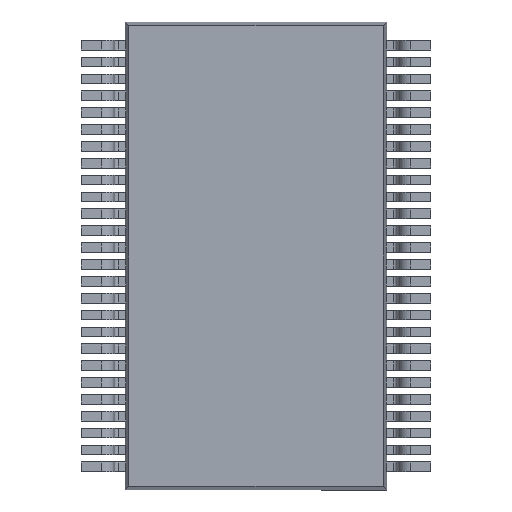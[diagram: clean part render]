
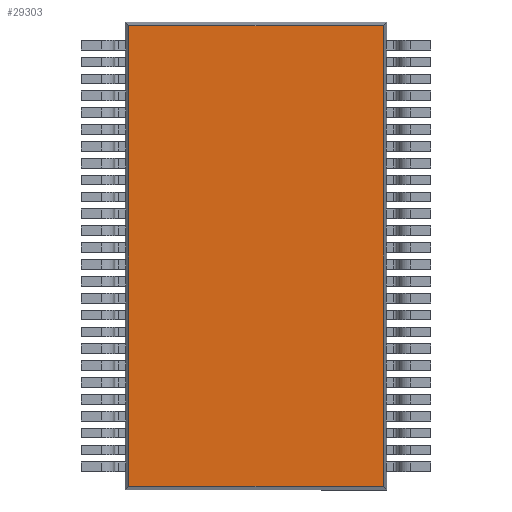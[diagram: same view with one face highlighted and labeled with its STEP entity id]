
A CAD part, front view. The second image highlights one B-rep face of the part: STEP entity #29303.
In plain terms, the highlighted planar face has unit normal (0, -1, 0).
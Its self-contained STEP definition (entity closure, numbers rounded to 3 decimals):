
#350 = CARTESIAN_POINT ( 'NONE',  ( 3.016, 0.1, -5.466 ) ) ;
#358 = CARTESIAN_POINT ( 'NONE',  ( 3.016, 0.1, 5.466 ) ) ;
#360 = CARTESIAN_POINT ( 'NONE',  ( -3.016, 0.1, -5.466 ) ) ;
#371 = CARTESIAN_POINT ( 'NONE',  ( -3.016, 0.1, 5.466 ) ) ;
#7506 = EDGE_LOOP ( 'NONE', ( #7760, #7761, #7762, #7763 ) ) ;
#7760 = ORIENTED_EDGE ( 'NONE', *, *, #29519, .T. ) ;
#7761 = ORIENTED_EDGE ( 'NONE', *, *, #29426, .T. ) ;
#7762 = ORIENTED_EDGE ( 'NONE', *, *, #29511, .T. ) ;
#7763 = ORIENTED_EDGE ( 'NONE', *, *, #29425, .T. ) ;
#13763 = AXIS2_PLACEMENT_3D ( 'NONE', #17057, #17062, #17063 ) ;
#17056 = PLANE ( 'NONE',  #13763 ) ;
#17057 = CARTESIAN_POINT ( 'NONE',  ( 0., 0.1, 0. ) ) ;
#17062 = DIRECTION ( 'NONE',  ( 0., 1., 0. ) ) ;
#17063 = DIRECTION ( 'NONE',  ( 0., 0., 1. ) ) ;
#17550 = FACE_OUTER_BOUND ( 'NONE', #7506, .T. ) ;
#17783 = LINE ( 'NONE', #18785, #17792 ) ;
#17788 = LINE ( 'NONE', #18780, #17790 ) ;
#17790 = VECTOR ( 'NONE', #18781, 1000. ) ;
#17792 = VECTOR ( 'NONE', #18790, 1000. ) ;
#17958 = LINE ( 'NONE', #18962, #17961 ) ;
#17961 = VECTOR ( 'NONE', #18963, 1000. ) ;
#17974 = LINE ( 'NONE', #18978, #17977 ) ;
#17977 = VECTOR ( 'NONE', #18979, 1000. ) ;
#18780 = CARTESIAN_POINT ( 'NONE',  ( 3.1, 0.1, 5.466 ) ) ;
#18781 = DIRECTION ( 'NONE',  ( -1., 0., 0. ) ) ;
#18785 = CARTESIAN_POINT ( 'NONE',  ( 3.1, 0.1, -5.466 ) ) ;
#18790 = DIRECTION ( 'NONE',  ( 1., 0., 0. ) ) ;
#18962 = CARTESIAN_POINT ( 'NONE',  ( 3.016, 0.1, 5.55 ) ) ;
#18963 = DIRECTION ( 'NONE',  ( 0., 0., 1. ) ) ;
#18978 = CARTESIAN_POINT ( 'NONE',  ( -3.016, 0.1, 5.55 ) ) ;
#18979 = DIRECTION ( 'NONE',  ( 0., 0., -1. ) ) ;
#25346 = VERTEX_POINT ( 'NONE', #350 ) ;
#25354 = VERTEX_POINT ( 'NONE', #358 ) ;
#25356 = VERTEX_POINT ( 'NONE', #360 ) ;
#25367 = VERTEX_POINT ( 'NONE', #371 ) ;
#29303 = ADVANCED_FACE ( 'NONE', ( #17550 ), #17056, .F. ) ;
#29425 = EDGE_CURVE ( 'NONE', #25354, #25367, #17788, .T. ) ;
#29426 = EDGE_CURVE ( 'NONE', #25356, #25346, #17783, .T. ) ;
#29511 = EDGE_CURVE ( 'NONE', #25346, #25354, #17958, .T. ) ;
#29519 = EDGE_CURVE ( 'NONE', #25367, #25356, #17974, .T. ) ;
